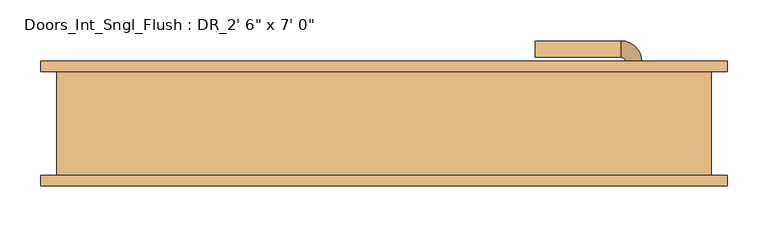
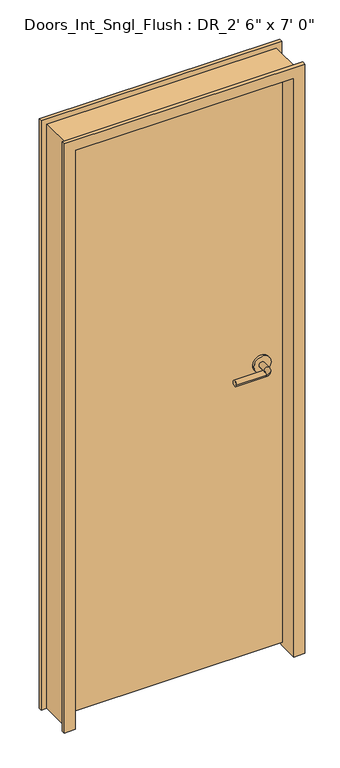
"""IFC4 building model written with IfcOpenShell, lengths in millimetres: door geometry."""

from ifc_helpers import new_model, si_unit, point, frame, frame_2d, origin, place, context, project, spatial, polyline, circle_curve, ellipse_curve, trimmed, segment, composite_curve, outline, extrude, faceted_brep, source, transform, mapped, element, save
from ifc_brep_helpers import plane_surface, cylinder_surface, revolved_surface, advanced_brep


def door_5fa0206f(model_context):
    return source(origin(), model_context, "Body", "SolidModel", [
        advanced_brep(
        [(314.8, 46.1, 1066.8), (294.8, 46.1, 1066.8), (294.8, 76.1, 1066.8), (314.8, 76.1, 1066.8), (289.8, 81.1, 1066.8), (289.8, 101.1, 1066.8), (184.8, 101.1, 1066.8), (184.8, 81.1, 1066.8)],
        [
            (0, 1, circle_curve(frame((304.8, 46.1, 1066.8), z_axis=(0.0, -1.0, 0.0), x_axis=(-1.0, 0.0, 0.0)), 10.0)),
            (1, 0, circle_curve(frame((304.8, 46.1, 1066.8), z_axis=(0.0, -1.0, 0.0), x_axis=(-1.0, 0.0, 0.0)), 10.0)),
            (1, 2),
            (2, 3, circle_curve(frame((304.8, 76.1, 1066.8), z_axis=(0.0, -1.0, 0.0), x_axis=(-1.0, 0.0, 0.0)), 10.0)),
            (3, 0),
            (3, 2, circle_curve(frame((304.8, 76.1, 1066.8), z_axis=(0.0, -1.0, 0.0), x_axis=(-1.0, 0.0, 0.0)), 10.0)),
            (4, 5, circle_curve(frame((289.8, 91.1, 1066.8), z_axis=(1.0, 0.0, 0.0), x_axis=(0.0, -1.0, 0.0)), 10.0)),
            (5, 3, circle_curve(frame((289.8, 76.1, 1066.8), z_axis=(0.0, 0.0, -1.0), x_axis=(1.0, 0.0, 0.0)), 25.0)),
            (2, 4, circle_curve(frame((289.8, 76.1, 1066.8), z_axis=(0.0, 0.0, 1.0), x_axis=(1.0, 0.0, 0.0)), 5.0)),
            (5, 4, circle_curve(frame((289.8, 91.1, 1066.8), z_axis=(1.0, 0.0, 0.0), x_axis=(0.0, -1.0, 0.0)), 10.0)),
            (6, 7, circle_curve(frame((184.8, 91.1, 1066.8), z_axis=(-1.0, 0.0, 0.0), x_axis=(0.0, -1.0, 0.0)), 10.0)),
            (7, 6, circle_curve(frame((184.8, 91.1, 1066.8), z_axis=(-1.0, 0.0, 0.0), x_axis=(0.0, -1.0, 0.0)), 10.0)),
            (4, 7),
            (6, 5),
        ],
        [
            plane_surface(frame((304.8, 46.1, 1066.8), z_axis=(0.0, -1.0, 0.0), x_axis=(0.0, 0.0, 1.0))),
            cylinder_surface(frame((304.8, 46.1, 1066.8), z_axis=(0.0, -1.0, 0.0), x_axis=(-1.0, 0.0, 0.0)), 10.0),
            revolved_surface(trimmed(ellipse_curve(frame((304.8, 76.1, 1066.8), z_axis=(0.0, 1.0, 0.0), x_axis=(-1.0, 0.0, 0.0)), 10.0, 10.0), [point((314.8, 76.1, 1066.8))], [point((294.8, 76.1, 1066.8))], True, "CARTESIAN"), (289.8, 76.1, 1066.8), (0.0, 0.0, -1.0)),
            revolved_surface(trimmed(ellipse_curve(frame((304.8, 76.1, 1066.8), z_axis=(0.0, 1.0, 0.0), x_axis=(-1.0, 0.0, 0.0)), 10.0, 10.0), [point((294.8, 76.1, 1066.8))], [point((314.8, 76.1, 1066.8))], True, "CARTESIAN"), (289.8, 76.1, 1066.8), (0.0, 0.0, -1.0)),
            plane_surface(frame((184.8, 91.1, 1066.8), z_axis=(-1.0, 0.0, 0.0), x_axis=(0.0, 0.0, 1.0))),
            cylinder_surface(frame((289.8, 91.1, 1066.8), z_axis=(1.0, 0.0, 0.0), x_axis=(0.0, -1.0, 0.0)), 10.0),
        ],
        [
            (0, [[1, 2]]),
            (1, [[3, 4, 5, -2]]),
            (1, [[-5, 6, -3, -1]]),
            (2, [[7, 8, -4, 9]]),
            (3, [[10, -9, -6, -8]]),
            (4, [[11, 12]]),
            (5, [[13, -11, 14, -7]]),
            (5, [[-14, -12, -13, -10]]),
        ],
    ),
        extrude(outline(composite_curve([segment(trimmed(circle_curve(frame_2d((1066.8, 307.3)), 30.0), [point((1066.8, 337.3))], [point((1066.8, 277.3))], False, "CARTESIAN"), True, "CONTINUOUS"), segment(trimmed(circle_curve(frame_2d((1066.8, 307.3)), 30.0), [point((1066.8, 277.3))], [point((1066.8, 337.3))], False, "CARTESIAN"), True, "CONTINUOUS")], self_intersect=False)), frame((0.0, 38.1, 0.0), z_axis=(0.0, 1.0, 0.0), x_axis=(0.0, 0.0, 1.0)), (0.0, 0.0, 1.0), 8.0),
        advanced_brep(
        [(314.8, -14.35, 1066.8), (294.8, -14.35, 1066.8), (314.8, -44.35, 1066.8), (294.8, -44.35, 1066.8), (289.8, -49.35, 1066.8), (289.8, -69.35, 1066.8), (184.8, -69.35, 1066.8), (184.8, -49.35, 1066.8)],
        [
            (0, 1, circle_curve(frame((304.8, -14.35, 1066.8), z_axis=(0.0, 1.0, 0.0), x_axis=(-1.0, 0.0, 0.0)), 10.0)),
            (1, 0, circle_curve(frame((304.8, -14.35, 1066.8), z_axis=(0.0, 1.0, 0.0), x_axis=(-1.0, 0.0, 0.0)), 10.0)),
            (0, 2),
            (2, 3, circle_curve(frame((304.8, -44.35, 1066.8), z_axis=(0.0, 1.0, 0.0), x_axis=(-1.0, 0.0, 0.0)), 10.0)),
            (3, 1),
            (3, 2, circle_curve(frame((304.8, -44.35, 1066.8), z_axis=(0.0, 1.0, 0.0), x_axis=(-1.0, 0.0, 0.0)), 10.0)),
            (4, 3, circle_curve(frame((289.8, -44.35, 1066.8), z_axis=(0.0, 0.0, 1.0), x_axis=(1.0, 0.0, 0.0)), 5.0)),
            (2, 5, circle_curve(frame((289.8, -44.35, 1066.8), z_axis=(0.0, 0.0, -1.0), x_axis=(1.0, 0.0, 0.0)), 25.0)),
            (5, 4, circle_curve(frame((289.8, -59.35, 1066.8), z_axis=(1.0, 0.0, 0.0), x_axis=(0.0, 1.0, 0.0)), 10.0)),
            (4, 5, circle_curve(frame((289.8, -59.35, 1066.8), z_axis=(1.0, 0.0, 0.0), x_axis=(0.0, 1.0, 0.0)), 10.0)),
            (6, 7, circle_curve(frame((184.8, -59.35, 1066.8), z_axis=(-1.0, 0.0, 0.0), x_axis=(0.0, 1.0, 0.0)), 10.0)),
            (7, 6, circle_curve(frame((184.8, -59.35, 1066.8), z_axis=(-1.0, 0.0, 0.0), x_axis=(0.0, 1.0, 0.0)), 10.0)),
            (5, 6),
            (7, 4),
        ],
        [
            plane_surface(frame((304.8, -14.35, 1066.8), z_axis=(0.0, 1.0, 0.0), x_axis=(0.0, 0.0, 1.0))),
            cylinder_surface(frame((304.8, -14.35, 1066.8), z_axis=(0.0, 1.0, 0.0), x_axis=(-1.0, 0.0, 0.0)), 10.0),
            revolved_surface(trimmed(ellipse_curve(frame((304.8, -44.35, 1066.8), z_axis=(0.0, 1.0, 0.0), x_axis=(-1.0, 0.0, 0.0)), 10.0, 10.0), [point((314.8, -44.35, 1066.8))], [point((294.8, -44.35, 1066.8))], True, "CARTESIAN"), (289.8, -44.35, 1066.8), (0.0, 0.0, -1.0)),
            revolved_surface(trimmed(ellipse_curve(frame((304.8, -44.35, 1066.8), z_axis=(0.0, 1.0, 0.0), x_axis=(-1.0, 0.0, 0.0)), 10.0, 10.0), [point((294.8, -44.35, 1066.8))], [point((314.8, -44.35, 1066.8))], True, "CARTESIAN"), (289.8, -44.35, 1066.8), (0.0, 0.0, -1.0)),
            plane_surface(frame((184.8, -59.35, 1066.8), z_axis=(-1.0, 0.0, 0.0), x_axis=(0.0, 0.0, 1.0))),
            cylinder_surface(frame((289.8, -59.35, 1066.8), z_axis=(1.0, 0.0, 0.0), x_axis=(0.0, 1.0, 0.0)), 10.0),
        ],
        [
            (0, [[1, 2]]),
            (1, [[-1, 3, 4, 5]]),
            (1, [[-2, -5, 6, -3]]),
            (2, [[7, -4, 8, 9]]),
            (3, [[-8, -6, -7, 10]]),
            (4, [[11, 12]]),
            (5, [[-9, 13, -12, 14]]),
            (5, [[-10, -14, -11, -13]]),
        ],
    ),
        extrude(outline(composite_curve([segment(trimmed(circle_curve(frame_2d((1066.8, 307.3)), 30.0), [point((1066.8, 337.3))], [point((1066.8, 277.3))], False, "CARTESIAN"), True, "CONTINUOUS"), segment(trimmed(circle_curve(frame_2d((1066.8, 307.3)), 30.0), [point((1066.8, 277.3))], [point((1066.8, 337.3))], False, "CARTESIAN"), True, "CONTINUOUS")], self_intersect=False)), frame((0.0, -14.35, 0.0), z_axis=(0.0, 1.0, 0.0), x_axis=(0.0, 0.0, 1.0)), (0.0, 0.0, 1.0), 8.0),
        extrude(outline(polyline([(-381.0, 38.1), (381.0, 38.1), (381.0, -6.35), (-381.0, -6.35), (-381.0, 38.1)])), frame((0.0, 0.0, 12.7), z_axis=(0.0, 0.0, 1.0), x_axis=(1.0, 0.0, 0.0)), (0.0, 0.0, 1.0), 2120.9),
        faceted_brep([(-381.0, -76.2, 0.0), (-419.1, -76.2, 0.0), (-419.1, -63.5, 0.0), (-400.05, -63.5, 0.0), (-400.05, 63.5, 0.0), (-419.1, 63.5, 0.0), (-419.1, 76.2, 0.0), (-381.0, 76.2, 0.0), (-381.0, -76.2, 2133.6), (381.0, -76.2, 2133.6), (381.0, -76.2, 0.0), (419.1, -76.2, 0.0), (419.1, -76.2, 2171.7), (-419.1, -76.2, 2171.7), (-419.1, -63.5, 2171.7), (419.1, -63.5, 2171.7), (419.1, -63.5, 0.0), (400.05, -63.5, 0.0), (400.05, -63.5, 2152.65), (-400.05, -63.5, 2152.65), (-400.05, 63.5, 2152.65), (400.05, 63.5, 2152.65), (400.05, 63.5, 0.0), (419.1, 63.5, 0.0), (419.1, 63.5, 2171.7), (-419.1, 63.5, 2171.7), (-419.1, 76.2, 2171.7), (419.1, 76.2, 2171.7), (419.1, 76.2, 0.0), (381.0, 76.2, 0.0), (381.0, 76.2, 2133.6), (-381.0, 76.2, 2133.6)], [[[0, 1, 2, 3, 4, 5, 6, 7]], [[1, 0, 8, 9, 10, 11, 12, 13]], [[2, 1, 13, 14]], [[3, 2, 14, 15, 16, 17, 18, 19]], [[4, 3, 19, 20]], [[5, 4, 20, 21, 22, 23, 24, 25]], [[6, 5, 25, 26]], [[7, 6, 26, 27, 28, 29, 30, 31]], [[0, 7, 31, 8]], [[9, 30, 29, 10]], [[10, 29, 28, 23, 22, 17, 16, 11]], [[15, 12, 11, 16]], [[27, 24, 23, 28]], [[21, 18, 17, 22]], [[20, 19, 18, 21]], [[8, 31, 30, 9]], [[14, 13, 12, 15]], [[26, 25, 24, 27]]]),
    ])


if __name__ == "__main__":
    model = new_model("IFC4")
    model_context = context("Model", 3, world=origin())
    ifc_project = project(units=[si_unit("LENGTHUNIT", "METRE", prefix="MILLI")], contexts=[model_context])
    site = spatial("IfcSite", under=ifc_project)
    building = spatial("IfcBuilding", under=site)
    placement = place(None, origin())
    door_shape = door_5fa0206f(model_context)
    element("IfcDoor", 1, ObjectType="Doors_Int_Sngl_Flush : DR_2' 6\" x 7' 0\"", at=placement, inside=building, context=model_context, shape_type="MappedRepresentation", body=[
        mapped(door_shape, transform((0.0, 0.0, 0.0), x_axis=(1.0, 0.0, 0.0), y_axis=(0.0, 1.0, 0.0), z_axis=(0.0, 0.0, 1.0))),
    ])
    save(model, "model.ifc")
